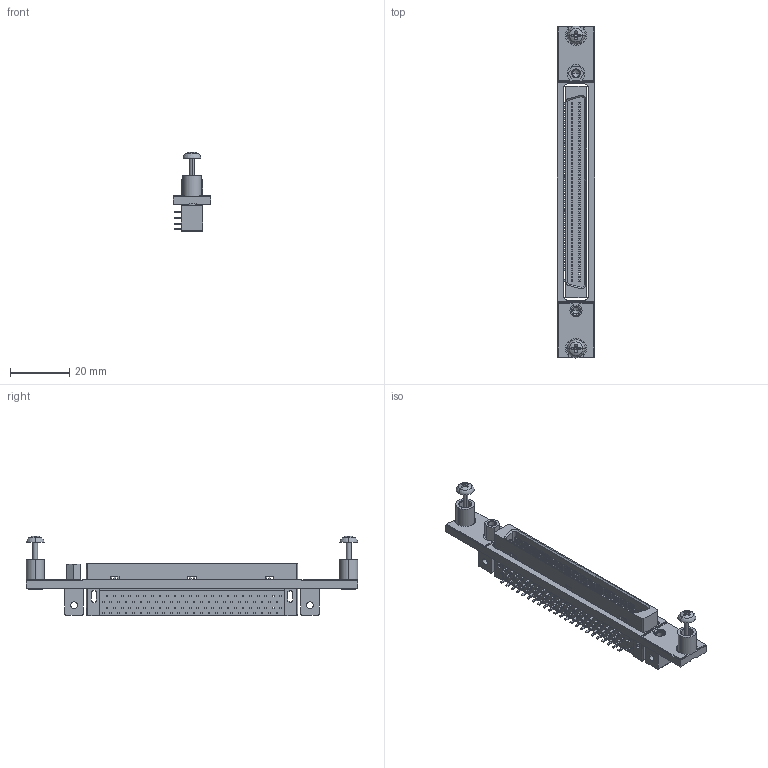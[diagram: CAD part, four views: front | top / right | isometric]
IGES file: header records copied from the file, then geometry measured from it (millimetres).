
Start section:  PTC IGES file: cu_ni-281x.igs
Global section: file name: cu_ni-281x.igs; native system: Pro/ENGINEER by Parametric Technology Corporation; preprocessor: 2006080; author: jjorden; organization: Unknown; date: 100524.084518; units: inch
Bounding box: 12.45 x 111.63 x 26.85 mm (x, y, z)
Surface area: 11678.7 mm2 (no closed solid volume)
Topology: 0 solids, 0 shells, 2398 faces, 12228 edges, 12216 vertices
Faces by surface type: bspline 2088, revolution 310
